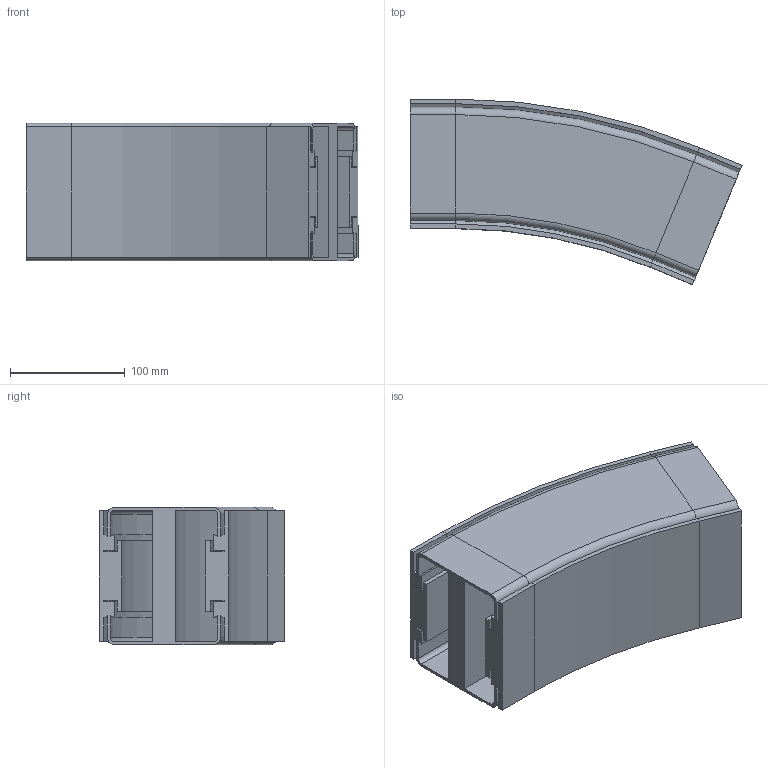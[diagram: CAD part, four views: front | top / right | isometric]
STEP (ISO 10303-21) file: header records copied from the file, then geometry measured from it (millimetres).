
FILE_DESCRIPTION (( 'STEP AP214' ), '1' );
FILE_NAME ('VC.120 Verticale bochtsectie.R500 22,5.STEP', '2017-02-08T08:10:13', ( '' ), ( '' ), 'SwSTEP 2.0', 'SolidWorks 2016', '' );
FILE_SCHEMA (( 'AUTOMOTIVE_DESIGN' ));
Length unit declared in the file: millimetre
Products named in the file (1): VC.120 Verticale bochtsectie.R500 22,5
Bounding box: 289.92 x 162.07 x 120 mm (x, y, z)
Volume: 1629392.9 mm3; surface area: 405785.7 mm2
Topology: 1 solids, 1 shells, 206 faces, 476 edges, 272 vertices
Faces by surface type: plane 144, cylinder 46, cone 8, torus 8
Entity records: 5674 total; most frequent: DIRECTION 990, CARTESIAN_POINT 955, ORIENTED_EDGE 952, EDGE_CURVE 476, VECTOR 376, LINE 376, AXIS2_PLACEMENT_3D 307, VERTEX_POINT 272
